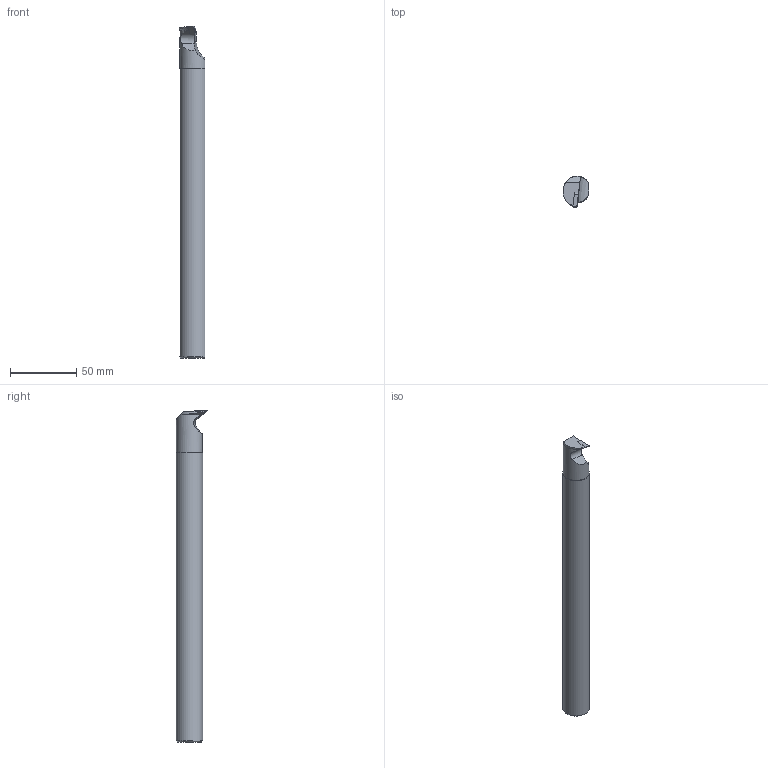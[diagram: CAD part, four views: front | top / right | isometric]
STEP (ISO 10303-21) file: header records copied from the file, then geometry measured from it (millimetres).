
FILE_DESCRIPTION(/* description */ (''),/* implementation_level */ '2;1');
FILE_NAME(/* name */ 'A20S-SVUBR-11-HAAS.stp',/* time_stamp */ '2021-09-29T11:56:49+09:00',/* author */ (''),/* organization */ (''),/* preprocessor_version */ 'ST-DEVELOPER v11',/* originating_system */ 'SIEMENS UGS NX 6.0',/* authorisation */ '');
FILE_SCHEMA (('CONFIG_CONTROL_DESIGN'));
Length unit declared in the file: millimetre
Products named in the file (1): user080E644o
Bounding box: 19.38 x 23.96 x 250 mm (x, y, z)
Volume: 73752.3 mm3; surface area: 16114.4 mm2
Topology: 2 solids, 2 shells, 24 faces, 59 edges, 39 vertices
Faces by surface type: plane 13, cone 5, cylinder 5, bspline 1
Full cylindrical faces by diameter (mm): 4 x1
Entity records: 861 total; most frequent: CARTESIAN_POINT 221, ORIENTED_EDGE 114, DIRECTION 111, EDGE_CURVE 57, AXIS2_PLACEMENT_3D 42, VERTEX_POINT 38, LINE 27, VECTOR 27
